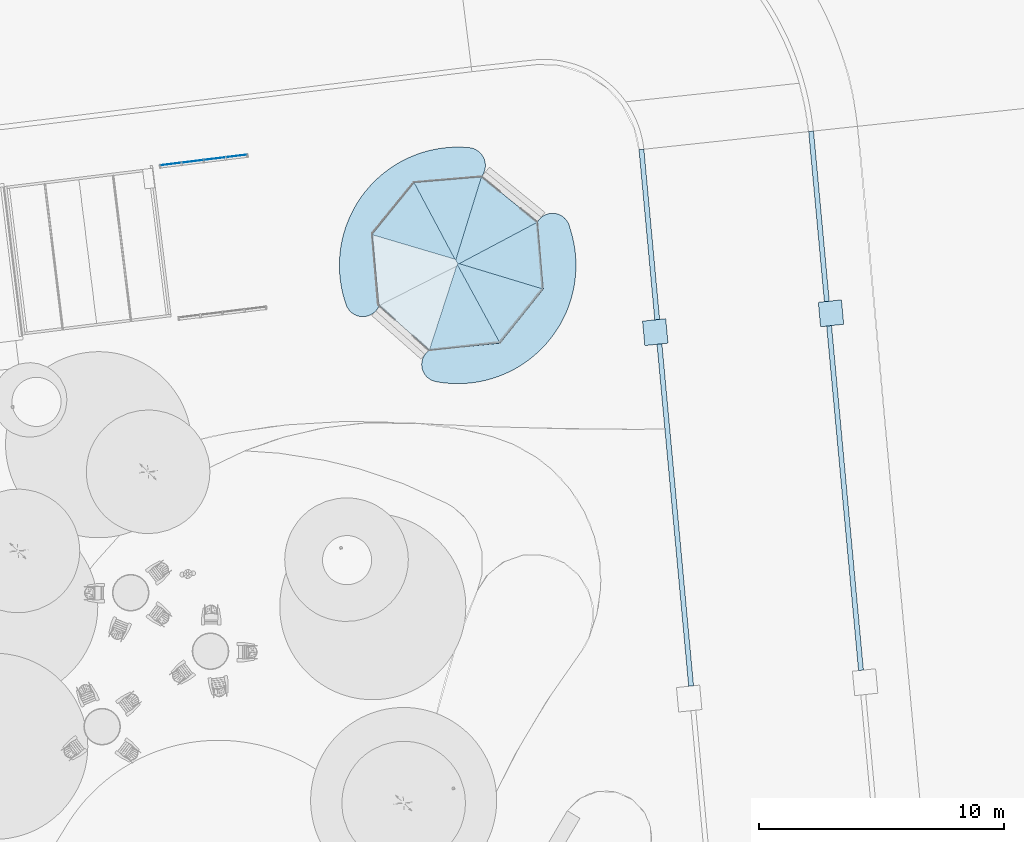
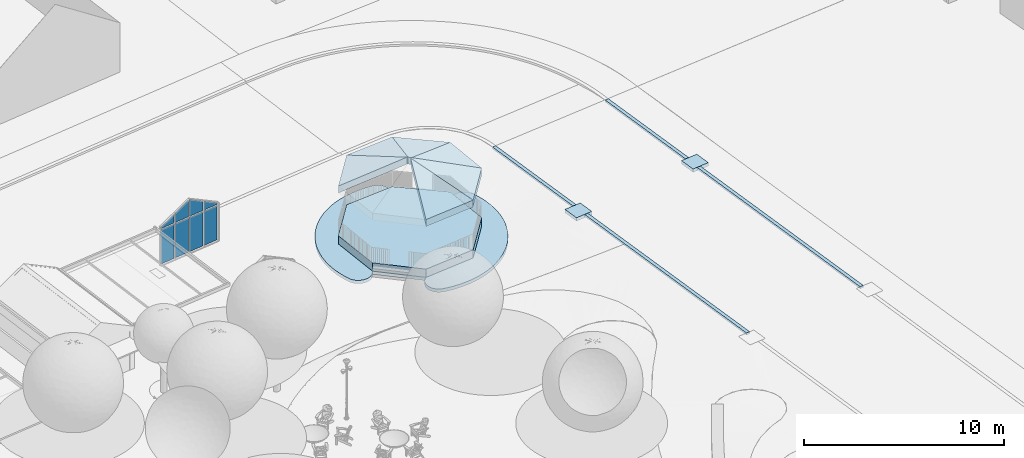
# One storey, part 14 of 75: 14 slabs, 8 plates, 2 elements without a shape of their own.
"""IFC2X3 building model written with IfcOpenShell, lengths in metres."""

from ifc_helpers import new_model, entity, si_unit, converted_unit, derived_unit, direction, frame, frame_2d, origin, place, context, subcontext, project, spatial, polyline, circle_curve, parameter, trimmed, segment, composite_curve, rectangle, outline, extrude, faceted_brep, source, transform, mapped, material, layer, layer_set, layer_usage, type_object, type_shapes, element, aggregate, save


model = new_model("IFC2X3")

# Units and contexts
model_context = context("Model", 3, precision=1e-05, world=origin(), true_north=direction((6.123031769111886e-17, 1.0)))
body_context = subcontext(model_context, "Body", "Model", "MODEL_VIEW")
ifc_project = project(units=[si_unit("LENGTHUNIT", "METRE"), si_unit("AREAUNIT", "SQUARE_METRE"), si_unit("VOLUMEUNIT", "CUBIC_METRE"), converted_unit("PLANEANGLEUNIT", "DEGREE", entity("IfcRatioMeasure", 0.017453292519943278), si_unit("PLANEANGLEUNIT", "RADIAN"), dimensions=[0, 0, 0, 0, 0, 0, 0]), si_unit("MASSUNIT", "GRAM", prefix="KILO"), derived_unit("MASSDENSITYUNIT", [(si_unit("MASSUNIT", "GRAM", prefix="KILO"), 1), (si_unit("LENGTHUNIT", "METRE"), -3)]), derived_unit("IONCONCENTRATIONUNIT", [(si_unit("MASSUNIT", "GRAM", prefix="KILO"), 1), (si_unit("LENGTHUNIT", "METRE"), -3)]), derived_unit("MOMENTOFINERTIAUNIT", [(si_unit("LENGTHUNIT", "METRE"), 4)]), si_unit("TIMEUNIT", "SECOND"), si_unit("FREQUENCYUNIT", "HERTZ"), si_unit("THERMODYNAMICTEMPERATUREUNIT", "DEGREE_CELSIUS"), derived_unit("THERMALTRANSMITTANCEUNIT", [(si_unit("MASSUNIT", "GRAM", prefix="KILO"), 1), (si_unit("THERMODYNAMICTEMPERATUREUNIT", "KELVIN"), -1), (si_unit("TIMEUNIT", "SECOND"), -3)]), derived_unit("THERMALCONDUCTANCEUNIT", [(si_unit("MASSUNIT", "GRAM", prefix="KILO"), 1), (si_unit("THERMODYNAMICTEMPERATUREUNIT", "KELVIN"), -1), (si_unit("TIMEUNIT", "SECOND"), -3), (si_unit("LENGTHUNIT", "METRE"), 1)]), derived_unit("VOLUMETRICFLOWRATEUNIT", [(si_unit("LENGTHUNIT", "METRE"), 3), (si_unit("TIMEUNIT", "SECOND"), -1)]), derived_unit("MASSFLOWRATEUNIT", [(si_unit("MASSUNIT", "GRAM", prefix="KILO"), 1), (si_unit("TIMEUNIT", "SECOND"), -1)]), derived_unit("ROTATIONALFREQUENCYUNIT", [(si_unit("TIMEUNIT", "SECOND"), -1)]), si_unit("ELECTRICCURRENTUNIT", "AMPERE"), si_unit("ELECTRICVOLTAGEUNIT", "VOLT"), si_unit("POWERUNIT", "WATT"), si_unit("FORCEUNIT", "NEWTON", prefix="KILO"), si_unit("ILLUMINANCEUNIT", "LUX"), si_unit("LUMINOUSFLUXUNIT", "LUMEN"), si_unit("LUMINOUSINTENSITYUNIT", "CANDELA"), derived_unit("USERDEFINED", [(si_unit("MASSUNIT", "GRAM", prefix="KILO"), -1), (si_unit("LENGTHUNIT", "METRE"), -2), (si_unit("TIMEUNIT", "SECOND"), 3), (si_unit("LUMINOUSFLUXUNIT", "LUMEN"), 1)]), derived_unit("USERDEFINED", [(si_unit("MASSUNIT", "GRAM", prefix="KILO"), 1), (si_unit("TIMEUNIT", "SECOND"), -3), (si_unit("LENGTHUNIT", "METRE"), 3), (si_unit("ELECTRICCURRENTUNIT", "AMPERE"), -2)]), derived_unit("SOUNDPOWERUNIT", [(si_unit("MASSUNIT", "GRAM", prefix="KILO"), 1), (si_unit("TIMEUNIT", "SECOND"), -3), (si_unit("LENGTHUNIT", "METRE"), 2)]), derived_unit("SOUNDPRESSUREUNIT", [(si_unit("MASSUNIT", "GRAM", prefix="KILO"), 1), (si_unit("LENGTHUNIT", "METRE"), -1), (si_unit("TIMEUNIT", "SECOND"), -2)]), derived_unit("LINEARVELOCITYUNIT", [(si_unit("LENGTHUNIT", "METRE"), 1), (si_unit("TIMEUNIT", "SECOND"), -1)]), si_unit("PRESSUREUNIT", "PASCAL"), derived_unit("USERDEFINED", [(si_unit("MASSUNIT", "GRAM", prefix="KILO"), 1), (si_unit("LENGTHUNIT", "METRE"), -2), (si_unit("TIMEUNIT", "SECOND"), -2)]), derived_unit("LINEARFORCEUNIT", [(si_unit("MASSUNIT", "GRAM", prefix="KILO"), 1), (si_unit("TIMEUNIT", "SECOND"), -2)]), derived_unit("PLANARFORCEUNIT", [(si_unit("MASSUNIT", "GRAM", prefix="KILO"), 1), (si_unit("LENGTHUNIT", "METRE"), -1), (si_unit("TIMEUNIT", "SECOND"), -2)]), derived_unit("SPECIFICHEATCAPACITYUNIT", [(si_unit("THERMODYNAMICTEMPERATUREUNIT", "KELVIN"), -1), (si_unit("LENGTHUNIT", "METRE"), 2), (si_unit("TIMEUNIT", "SECOND"), -2)]), derived_unit("HEATINGVALUEUNIT", [(si_unit("LENGTHUNIT", "METRE"), 2), (si_unit("TIMEUNIT", "SECOND"), -2)]), derived_unit("VAPORPERMEABILITYUNIT", [(si_unit("LENGTHUNIT", "METRE"), -1), (si_unit("TIMEUNIT", "SECOND"), 1)]), derived_unit("DYNAMICVISCOSITYUNIT", [(si_unit("MASSUNIT", "GRAM", prefix="KILO"), 1), (si_unit("TIMEUNIT", "SECOND"), -1), (si_unit("LENGTHUNIT", "METRE"), -1)]), derived_unit("THERMALEXPANSIONCOEFFICIENTUNIT", [(si_unit("THERMODYNAMICTEMPERATUREUNIT", "KELVIN"), -1)]), derived_unit("MODULUSOFELASTICITYUNIT", [(si_unit("MASSUNIT", "GRAM", prefix="KILO"), 1), (si_unit("LENGTHUNIT", "METRE"), -1), (si_unit("TIMEUNIT", "SECOND"), -2)]), derived_unit("ISOTHERMALMOISTURECAPACITYUNIT", [(si_unit("LENGTHUNIT", "METRE"), 3), (si_unit("MASSUNIT", "GRAM", prefix="KILO"), -1)]), derived_unit("MOISTUREDIFFUSIVITYUNIT", [(si_unit("TIMEUNIT", "SECOND"), -1), (si_unit("LENGTHUNIT", "METRE"), 2)])], contexts=[model_context])

# Site, building, storey
site_placement = place(None, origin())
site = spatial("IfcSite", under=ifc_project, at=site_placement, Name="Default", CompositionType="ELEMENT")
building_placement = place(site_placement, origin())
building = spatial("IfcBuilding", under=site, at=building_placement, Name="Projeto", CompositionType="ELEMENT")
storey_placement = place(building_placement, origin())
storey = spatial("IfcBuildingStorey", under=building, at=storey_placement, Name="Nível 1", CompositionType="ELEMENT", Elevation=0.0)

# Roof, slabs
ifc_material_1 = material(Name="NBS_Betafence_GreenRAL6005")
ifc_layer_1 = layer(ifc_material_1, 0.4)
ifc_layer_set_1 = layer_set([ifc_layer_1], Name="Telhado básico:Genérico - 400 mm")
roof_placement = place(storey_placement, frame((16.56648787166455, 28.04802885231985, 0.4999999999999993)))
roof = element("IfcRoof", 1, at=roof_placement, inside=storey, material=ifc_layer_set_1, Name="Telhado básico:Genérico - 400 mm", ObjectType="Telhado básico:Genérico - 400 mm", ShapeType="NOTDEFINED")
slab_type_1 = type_object("IfcSlabType", Name="Telhado básico:Genérico - 400 mm", PredefinedType="ROOF")
slab_1_placement = place(roof_placement, origin())
slab_1 = element("IfcSlab", 2, at=slab_1_placement, type_object=slab_type_1, material=ifc_layer_set_1, Name="Telhado básico:Genérico - 400 mm", ObjectType="Telhado básico:Genérico - 400 mm", PredefinedType="ROOF", context=body_context, shape_type="SweptSolid", body=[
    extrude(outline(polyline([(0.1521872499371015, -1.7103582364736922), (0.18987840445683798, -1.7440304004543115), (1.2392605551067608, 1.8571425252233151), (-1.5159757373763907, 1.6390737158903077), (0.1521872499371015, -1.7103582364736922)])), frame((3.2269632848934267, 5.3192799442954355, 0.5997579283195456), z_axis=(-0.02870552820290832, 0.3408133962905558, 0.9396926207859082), x_axis=(0.9995879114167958, 0.009787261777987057, 0.02698549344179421)), (0.02698549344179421, -0.34095389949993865, 0.9396926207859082), 0.42567110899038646),
])
slab_2_placement = place(roof_placement, origin())
slab_2 = element("IfcSlab", 3, at=slab_2_placement, type_object=slab_type_1, material=ifc_layer_set_1, Name="Telhado básico:Genérico - 400 mm", ObjectType="Telhado básico:Genérico - 400 mm", PredefinedType="ROOF", context=body_context, shape_type="SweptSolid", body=[
    extrude(outline(polyline([(-0.43137923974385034, 2.166538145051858), (-2.207317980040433, 0.08788013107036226), (1.2987640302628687, -1.1513024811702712), (-0.43137923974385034, 2.166538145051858)])), frame((2.127366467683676, 4.758470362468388, 0.5935090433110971), z_axis=(-0.2667025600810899, 0.21412034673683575, 0.939692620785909), x_axis=(0.9637788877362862, 0.05925264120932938, 0.26003726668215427)), (0.26003726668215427, -0.22216750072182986, 0.939692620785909), 0.42567110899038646),
])
slab_3_placement = place(roof_placement, origin())
slab_3 = element("IfcSlab", 4, at=slab_3_placement, type_object=slab_type_1, material=ifc_layer_set_1, Name="Telhado básico:Genérico - 400 mm", ObjectType="Telhado básico:Genérico - 400 mm", PredefinedType="ROOF", context=body_context, shape_type="SweptSolid", body=[
    extrude(outline(polyline([(-1.2743273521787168, -1.9092394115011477), (1.6106426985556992, -1.635522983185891), (-0.12279591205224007, 1.7766849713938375), (-0.16073840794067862, 1.7277616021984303), (-1.2743273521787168, -1.9092394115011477)])), frame((3.6105160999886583, 1.8100657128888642, 0.6089122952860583), z_axis=(0.03435761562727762, -0.34029007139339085, 0.9396926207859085), x_axis=(0.9994096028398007, 0.011698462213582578, -0.032304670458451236)), (-0.032304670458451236, 0.3404910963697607, 0.9396926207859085), 0.4256711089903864),
])
slab_4_placement = place(roof_placement, origin())
slab_4 = element("IfcSlab", 5, at=slab_4_placement, type_object=slab_type_1, material=ifc_layer_set_1, Name="Telhado básico:Genérico - 400 mm", ObjectType="Telhado básico:Genérico - 400 mm", PredefinedType="ROOF", context=body_context, shape_type="SweptSolid", body=[
    extrude(outline(polyline([(0.44560018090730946, -2.235267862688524), (2.277532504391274, -0.08847389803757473), (-1.2809399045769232, 1.1920136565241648), (-1.3379987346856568, 1.1894891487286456), (-1.3519886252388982, 1.1435850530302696), (0.44560018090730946, -2.235267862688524)])), frame((4.790763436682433, 2.4441983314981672, 0.6121880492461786), z_axis=(0.2668290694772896, -0.21396267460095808, 0.9396926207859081), x_axis=(0.9637438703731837, 0.05923924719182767, -0.2601700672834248)), (-0.2601700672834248, 0.22201196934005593, 0.9396926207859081), 0.42567110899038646),
])
slab_5_placement = place(roof_placement, origin())
slab_5 = element("IfcSlab", 6, at=slab_5_placement, type_object=slab_type_1, material=ifc_layer_set_1, Name="Telhado básico:Genérico - 400 mm", ObjectType="Telhado básico:Genérico - 400 mm", PredefinedType="ROOF", context=body_context, shape_type="SweptSolid", body=[
    extrude(outline(polyline([(1.88963511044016, -1.1982977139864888), (1.6328687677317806, 1.5298293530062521), (-1.7580409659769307, -0.19988221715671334), (1.88963511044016, -1.1982977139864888)])), frame((5.209132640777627, 3.711166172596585, 0.6050457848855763), z_axis=(0.3406902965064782, 0.030131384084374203, 0.939692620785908), x_axis=(0.9401755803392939, -0.010918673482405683, -0.34051528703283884)), (-0.34051528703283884, -0.03204867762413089, 0.939692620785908), 0.42567110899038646),
])
slab_6_placement = place(roof_placement, origin())
slab_6 = element("IfcSlab", 7, at=slab_6_placement, type_object=slab_type_1, material=ifc_layer_set_1, Name="Telhado básico:Genérico - 400 mm", ObjectType="Telhado básico:Genérico - 400 mm", PredefinedType="ROOF", context=body_context, shape_type="SweptSolid", body=[
    extrude(outline(polyline([(2.254335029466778, 0.5290963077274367), (-0.07931748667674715, 2.3142337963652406), (-1.1536092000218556, -1.2795868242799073), (-1.0670555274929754, -1.4373108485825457), (-1.0107369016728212, -1.4278084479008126), (2.254335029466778, 0.5290963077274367)])), frame((4.543159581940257, 4.845411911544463, 0.6121880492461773), z_axis=(0.2159225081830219, 0.2652456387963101, 0.9396926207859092), x_axis=(0.9764105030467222, -0.05865617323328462, -0.20780274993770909)), (-0.20780274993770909, -0.2716538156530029, 0.9396926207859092), 0.42567110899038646),
])
aggregate(roof, [slab_1, slab_2, slab_3, slab_4, slab_5, slab_6])

# Slabs
ifc_material_2 = material(Name="Concreto moldado In loco")
ifc_layer_2 = layer(ifc_material_2, 0.12)
ifc_layer_set_2 = layer_set([ifc_layer_2], Name="Piso:meio fio de concreto")
ifc_layer_usage_1 = layer_usage(ifc_layer_set_2, "AXIS3", "POSITIVE", 0.0)
slab_type_2 = type_object("IfcSlabType", Name="Piso:meio fio de concreto", PredefinedType="FLOOR", material=ifc_layer_set_2)
slab_7_placement = place(storey_placement, frame((27.450849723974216, -10.7583369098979, -2.720221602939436)))
element("IfcSlab", 8, at=slab_7_placement, inside=storey, type_object=slab_type_2, material=ifc_layer_usage_1, Name="Piso:meio fio de concreto", ObjectType="Piso:meio fio de concreto", PredefinedType="FLOOR", context=body_context, shape_type="SweptSolid", body=[
    extrude(outline(polyline([(-3.306108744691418, -0.353084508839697), (-3.5049940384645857, -0.37436840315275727), (-2.8631333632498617, -7.31831836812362), (-2.6642480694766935, -7.297034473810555), (-3.306108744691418, -0.353084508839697)])), frame((3.5049337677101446, 47.35473072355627, 0.12022160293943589), z_axis=(-0.005864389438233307, 0.05471618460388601, 0.9984847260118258), x_axis=(0.9999828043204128, 0.00032088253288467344, 0.0058556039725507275)), (-0.0058556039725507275, 0.05471712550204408, -0.9984847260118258), 0.12018210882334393),
])
slab_8_placement = place(storey_placement, frame((27.450849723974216, -10.7583369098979, -2.720221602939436)))
element("IfcSlab", 9, at=slab_8_placement, inside=storey, type_object=slab_type_2, material=ifc_layer_usage_1, Name="Piso:meio fio de concreto:4", ObjectType="Piso:meio fio de concreto", PredefinedType="FLOOR", context=body_context, shape_type="SweptSolid", body=[
    extrude(outline(polyline([(3.4095646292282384, 0.36559951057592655), (4.051425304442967, -6.578350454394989), (4.250310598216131, -6.557066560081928), (3.6084499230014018, 0.38688340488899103), (3.4095646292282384, 0.36559951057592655)])), frame((3.5049337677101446, 47.35473072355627, 0.12022160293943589), z_axis=(-0.005864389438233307, 0.05471618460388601, 0.9984847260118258), x_axis=(0.9999828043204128, 0.00032088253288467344, 0.0058556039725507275)), (-0.0058556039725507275, 0.05471712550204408, -0.9984847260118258), 0.12018210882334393),
])
slab_9_placement = place(storey_placement, frame((27.450849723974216, -10.7583369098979, -2.720221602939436)))
element("IfcSlab", 10, at=slab_9_placement, inside=storey, type_object=slab_type_2, material=ifc_layer_usage_1, Name="Piso:meio fio de concreto:7", ObjectType="Piso:meio fio de concreto", PredefinedType="FLOOR", context=body_context, shape_type="SweptSolid", body=[
    extrude(outline(polyline([(5.443370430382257, -21.637065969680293), (5.642255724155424, -21.615782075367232), (4.836151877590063, -12.894972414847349), (4.342502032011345, -7.554436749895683), (4.143616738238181, -7.575720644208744), (4.6644237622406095, -13.210055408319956), (5.443370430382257, -21.637065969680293)])), frame((3.5049337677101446, 47.35473072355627, 0.12022160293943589), z_axis=(-0.005864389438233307, 0.05471618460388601, 0.9984847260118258), x_axis=(0.9999828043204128, 0.00032088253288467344, 0.0058556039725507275)), (-0.0058556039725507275, 0.05471712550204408, -0.9984847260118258), 0.12018210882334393),
])
slab_10_placement = place(storey_placement, frame((27.450849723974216, -10.7583369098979, -2.720221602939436)))
element("IfcSlab", 11, at=slab_10_placement, inside=storey, type_object=slab_type_2, material=ifc_layer_usage_1, Name="Piso:meio fio de concreto:8", ObjectType="Piso:meio fio de concreto", PredefinedType="FLOOR", context=body_context, shape_type="SweptSolid", body=[
    extrude(outline(polyline([(-1.480618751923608, -22.275010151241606), (-1.28173345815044, -22.253726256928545), (-2.0361285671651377, -14.092325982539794), (-2.572056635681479, -8.29440466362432), (-2.770941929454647, -8.315688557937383), (-2.190311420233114, -14.597221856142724), (-1.480618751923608, -22.275010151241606)])), frame((3.5049337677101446, 47.35473072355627, 0.12022160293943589), z_axis=(-0.005864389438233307, 0.05471618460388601, 0.9984847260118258), x_axis=(0.9999828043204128, 0.00032088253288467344, 0.0058556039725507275)), (-0.0058556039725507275, 0.05471712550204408, -0.9984847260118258), 0.12018210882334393),
])
ifc_material_3 = material(Name="floração tipo 2")
ifc_layer_3 = layer(ifc_material_3, 0.04)
ifc_layer_4 = layer(ifc_material_3, 0.16)
ifc_layer_set_3 = layer_set([ifc_layer_3, ifc_layer_4], Name="Piso:Floração tipo 2")
ifc_layer_usage_2 = layer_usage(ifc_layer_set_3, "AXIS3", "POSITIVE", 0.0)
slab_type_3 = type_object("IfcSlabType", Name="Piso:Floração tipo 2", PredefinedType="FLOOR", material=ifc_layer_set_3)
slab_11_placement = place(storey_placement, origin())
element("IfcSlab", 12, at=slab_11_placement, inside=storey, type_object=slab_type_3, material=ifc_layer_usage_2, Name="Piso:Floração tipo 2", ObjectType="Piso:Floração tipo 2", PredefinedType="FLOOR", context=body_context, shape_type="SweptSolid", body=[
    extrude(outline(composite_curve([segment(trimmed(circle_curve(frame_2d((0.046779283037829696, 0.051218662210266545), x_axis=(1.0, 0.0)), 4.820563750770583), [parameter(0.0)], [parameter(119.35913881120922)], True, "PARAMETER"), True, "CONTINUOUS"), segment(trimmed(circle_curve(frame_2d((-1.9706352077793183, 3.637530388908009), x_axis=(-0.4902823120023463, 0.8715636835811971)), 0.7057620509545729), [parameter(0.0)], [parameter(135.135611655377)], True, "PARAMETER"), True, "CONTINUOUS"), segment(polyline([(-2.1593042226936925, 2.9574538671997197), (-3.511492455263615, 0.5767010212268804)]), True, "CONTINUOUS"), segment(trimmed(circle_curve(frame_2d((-4.056798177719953, 0.11186929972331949), x_axis=(0.7610282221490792, 0.6487187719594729)), 0.716538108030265), [parameter(0.0)], [parameter(138.70816106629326)], True, "PARAMETER"), True, "CONTINUOUS"), segment(trimmed(circle_curve(frame_2d((0.04677928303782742, 0.05121866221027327), x_axis=(-0.9998907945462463, 0.014778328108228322)), 4.820563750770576), [parameter(0.0)], [parameter(115.745402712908)], True, "PARAMETER"), True, "CONTINUOUS"), segment(trimmed(circle_curve(frame_2d((1.731082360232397, -3.6780068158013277), x_axis=(0.4728653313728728, -0.881134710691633)), 0.7300658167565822), [parameter(0.0)], [parameter(118.9844706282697)], True, "PARAMETER"), True, "CONTINUOUS"), segment(polyline([(2.1265122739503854, -3.0643038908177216), (3.69055208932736, -0.5748820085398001)]), True, "CONTINUOUS"), segment(trimmed(circle_curve(frame_2d((4.1645353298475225, -0.04678753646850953), x_axis=(-0.6679505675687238, -0.7442056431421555)), 0.7096082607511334), [parameter(0.0)], [parameter(139.8477593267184)], True, "PARAMETER"), True, "CONTINUOUS")], self_intersect=False)), frame((19.999772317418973, 31.541903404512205, -2.5999999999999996), z_axis=(0.0, 0.0, -1.0), x_axis=(0.9471392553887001, 0.320822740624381, 0.0)), (0.0, 0.0, 1.0), 0.19999999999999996),
])
ifc_material_4 = material(Name="Piso de carvalho")
ifc_layer_5 = layer(ifc_material_4, 0.49999999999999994)
ifc_layer_set_4 = layer_set([ifc_layer_5], Name="Piso:Madeira de lei padrão-Acabamento em madeira")
ifc_layer_usage_3 = layer_usage(ifc_layer_set_4, "AXIS3", "POSITIVE", 0.0)
slab_type_4 = type_object("IfcSlabType", Name="Piso:Madeira de lei padrão-Acabamento em madeira", PredefinedType="FLOOR", material=ifc_layer_set_4)
slab_12_placement = place(storey_placement, origin())
element("IfcSlab", 13, at=slab_12_placement, inside=storey, type_object=slab_type_4, material=ifc_layer_usage_3, Name="Piso:Madeira de lei padrão-Acabamento em madeira", ObjectType="Piso:Madeira de lei padrão-Acabamento em madeira", PredefinedType="FLOOR", context=body_context, shape_type="SweptSolid", body=[
    extrude(outline(polyline([(-1.475895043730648, -3.4233307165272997), (1.2879575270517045, -3.4233307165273), (3.402841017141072, -1.3837430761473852), (3.4143071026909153, 1.3564165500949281), (1.4702321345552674, 3.4022104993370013), (-1.4272943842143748, 3.4503036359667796), (-3.3117479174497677, 1.4640428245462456), (-3.3604004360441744, -1.4425690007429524), (-1.475895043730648, -3.4233307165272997)])), frame((20.036105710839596, 31.605950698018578, -2.0999999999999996), z_axis=(0.0, 0.0, -1.0), x_axis=(0.9964717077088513, 0.0839293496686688, 0.0)), (0.0, 0.0, 1.0), 0.4999999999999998),
])
ifc_material_5 = material(Name="floração tipo 2(1)")
ifc_layer_6 = layer(ifc_material_5, 0.04)
ifc_layer_7 = layer(ifc_material_3, 0.16)
ifc_layer_set_5 = layer_set([ifc_layer_6, ifc_layer_7], Name="Piso:Glicinia")
ifc_layer_usage_4 = layer_usage(ifc_layer_set_5, "AXIS3", "POSITIVE", 0.0)
slab_type_5 = type_object("IfcSlabType", Name="Piso:Glicinia", PredefinedType="FLOOR", material=ifc_layer_set_5)
slab_13_placement = place(storey_placement, frame((27.59549467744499, -1.6309922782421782, -2.4166315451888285)))
element("IfcSlab", 14, at=slab_13_placement, inside=storey, type_object=slab_type_5, material=ifc_layer_usage_4, Name="Piso:Glicinia:5", ObjectType="Piso:Glicinia", PredefinedType="FLOOR", context=body_context, shape_type="SweptSolid", body=[
    extrude(outline(polyline([(3.8028186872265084, -6.604955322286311), (3.8950101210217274, -7.60232551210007), (4.838504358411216, -7.501356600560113), (4.746737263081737, -6.503940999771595), (3.8028186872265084, -6.604955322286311)])), frame((3.36028881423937, 38.22738609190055, -0.1833684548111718), z_axis=(-0.005864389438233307, 0.05471618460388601, 0.9984847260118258), x_axis=(0.9999828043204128, 0.00032088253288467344, 0.0058556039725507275)), (-0.0058556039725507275, 0.05471712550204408, -0.9984847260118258), 0.20030351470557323),
])
slab_14_placement = place(storey_placement, frame((27.59549467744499, -1.6309922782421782, -2.4166315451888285)))
element("IfcSlab", 15, at=slab_14_placement, inside=storey, type_object=slab_type_5, material=ifc_layer_usage_4, Name="Piso:Glicinia:6", ObjectType="Piso:Glicinia", PredefinedType="FLOOR", context=body_context, shape_type="SweptSolid", body=[
    extrude(outline(polyline([(-3.3603465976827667, -7.371528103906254), (-3.2681551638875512, -8.368898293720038), (-2.323450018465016, -8.267799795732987), (-2.41564145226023, -7.270429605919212), (-3.3603465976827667, -7.371528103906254)])), frame((3.36028881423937, 38.22738609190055, -0.1833684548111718), z_axis=(-0.005864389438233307, 0.05471618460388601, 0.9984847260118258), x_axis=(0.9999828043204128, 0.00032088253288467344, 0.0058556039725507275)), (-0.0058556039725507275, 0.05471712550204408, -0.9984847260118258), 0.20030351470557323),
])

# Curtain wall, plates
curtain_wall_type = type_object("IfcCurtainWallType", Name="Parede cortina:Vitrine", PredefinedType="NOTDEFINED")
curtain_wall_placement = place(storey_placement, origin())
curtain_wall = element("IfcCurtainWall", 16, at=curtain_wall_placement, inside=storey, type_object=curtain_wall_type, Name="Parede cortina:Vitrine", ObjectType="Parede cortina:Vitrine")
ifc_material_6 = material(Name="Vidro")
plate_type_1 = type_object("IfcPlateType", Name="Painel do sistema:Envidraçado", PredefinedType="CURTAIN_PANEL", material=ifc_material_6)
shared_shape_1 = source(origin(), body_context, "Body", "SweptSolid", [
    extrude(rectangle(XDim=0.010000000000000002, YDim=0.8337612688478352, at=frame_2d((-4.336808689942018e-18, -1.3877787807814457e-16), x_axis=(1.0, 0.0))), frame((0.0, 0.037, 0.0), z_axis=(0.0, 0.0, 1.0), x_axis=(0.0, 1.0, 0.0)), (0.0, 0.0, 1.0), 2.1079684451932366),
])
type_shapes(plate_type_1, [shared_shape_1])
plate_1_placement = place(curtain_wall_placement, frame((8.369958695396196, 35.60225256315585, -2.5299999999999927), z_axis=(0.0, 0.0, 1.0), x_axis=(0.9925113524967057, 0.1221524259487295, 0.0)))
plate_1 = element("IfcPlate", 17, at=plate_1_placement, type_object=plate_type_1, material=ifc_material_6, Name="Painel do sistema:Envidraçado", ObjectType="Painel do sistema:Envidraçado", context=body_context, shape_type="MappedRepresentation", body=[
    mapped(shared_shape_1, transform((0.0, 0.0, 0.0), scale=1.0)),
])
plate_2_placement = place(curtain_wall_placement, frame((11.051013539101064, 35.9322209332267, -2.5299999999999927), z_axis=(0.0, 0.0, 1.0), x_axis=(0.9925113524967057, 0.1221524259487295, 0.0)))
plate_2 = element("IfcPlate", 18, at=plate_2_placement, type_object=plate_type_1, material=ifc_material_6, Name="Painel do sistema:Envidraçado", ObjectType="Painel do sistema:Envidraçado", context=body_context, shape_type="MappedRepresentation", body=[
    mapped(shared_shape_1, transform((0.0, 0.0, 0.0), scale=1.0)),
])
plate_type_2 = type_object("IfcPlateType", Name="Painel do sistema:Envidraçado", PredefinedType="CURTAIN_PANEL", material=ifc_material_6)
shared_shape_2 = source(origin(), body_context, "Body", "SweptSolid", [
    extrude(rectangle(XDim=0.010000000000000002, YDim=0.858761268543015, at=frame_2d((-4.336808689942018e-18, 5.551115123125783e-17), x_axis=(1.0, 0.0))), frame((0.0, 0.03699999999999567, 0.0), z_axis=(0.0, 0.0, 1.0), x_axis=(0.0, 1.0, 0.0)), (0.0, 0.0, 1.0), 2.1079684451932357),
])
type_shapes(plate_type_2, [shared_shape_2])
plate_3_placement = place(curtain_wall_placement, frame((9.259508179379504, 35.71173305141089, -2.5299999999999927), z_axis=(0.0, 0.0, 1.0), x_axis=(0.9925113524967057, 0.1221524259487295, 0.0)))
plate_3 = element("IfcPlate", 19, at=plate_3_placement, type_object=plate_type_2, material=ifc_material_6, Name="Painel do sistema:Envidraçado", ObjectType="Painel do sistema:Envidraçado", context=body_context, shape_type="MappedRepresentation", body=[
    mapped(shared_shape_2, transform((0.0, 0.0, 0.0), scale=1.0)),
])
plate_4_placement = place(curtain_wall_placement, frame((10.161464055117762, 35.822740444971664, -2.5299999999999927), z_axis=(0.0, 0.0, 1.0), x_axis=(0.9925113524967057, 0.1221524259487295, 0.0)))
plate_4 = element("IfcPlate", 20, at=plate_4_placement, type_object=plate_type_2, material=ifc_material_6, Name="Painel do sistema:Envidraçado", ObjectType="Painel do sistema:Envidraçado", context=body_context, shape_type="MappedRepresentation", body=[
    mapped(shared_shape_2, transform((0.0, 0.0, 0.0), scale=1.0)),
])
plate_type_3 = type_object("IfcPlateType", Name="Painel do sistema:Envidraçado", PredefinedType="CURTAIN_PANEL", material=ifc_material_6)
shared_shape_3 = source(origin(), body_context, "Body", "SweptSolid", [
    extrude(outline(polyline([(-0.16823398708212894, -0.4168806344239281), (-0.05342537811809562, -0.4168806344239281), (0.3898933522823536, 0.41688063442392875), (-0.16823398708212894, 0.4168806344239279), (-0.16823398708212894, -0.4168806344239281)])), frame((0.0, 0.032000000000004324, 0.1682339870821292), z_axis=(0.0, 1.0, 0.0), x_axis=(0.0, 0.0, 1.0)), (0.0, 0.0, 1.0), 0.010000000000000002),
])
type_shapes(plate_type_3, [shared_shape_3])
plate_5_placement = place(curtain_wall_placement, frame((8.369958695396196, 35.60225256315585, -0.37203155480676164), z_axis=(0.0, 0.0, 1.0), x_axis=(0.9925113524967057, 0.1221524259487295, 0.0)))
plate_5 = element("IfcPlate", 21, at=plate_5_placement, type_object=plate_type_3, material=ifc_material_6, Name="Painel do sistema:Envidraçado", ObjectType="Painel do sistema:Envidraçado", context=body_context, shape_type="MappedRepresentation", body=[
    mapped(shared_shape_3, transform((0.0, 0.0, 0.0), scale=1.0)),
])
plate_type_4 = type_object("IfcPlateType", Name="Painel do sistema:Envidraçado", PredefinedType="CURTAIN_PANEL", material=ifc_material_6)
shared_shape_4 = source(origin(), body_context, "Body", "Brep", [
    faceted_brep([(0.0, 0.0, 0.0), (0.8587612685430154, 0.0, 0.0), (0.8587612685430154, 0.0, 1.116815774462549), (0.8764993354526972, 0.0, 1.1073842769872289), (0.8999729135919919, 0.0, 1.0632368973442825), (0.0, 0.0, 0.5847128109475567), (0.0, 0.010000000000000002, 0.0), (0.0, 0.010000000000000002, 0.5847128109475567), (0.8999729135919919, 0.010000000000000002, 1.0632368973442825), (0.8764993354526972, 0.010000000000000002, 1.1073842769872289), (0.8587612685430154, 0.010000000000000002, 1.116815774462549), (0.8587612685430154, 0.010000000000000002, 0.0)], [[[0, 1, 2, 3, 4, 5]], [[6, 7, 8, 9, 10, 11]], [[1, 0, 6, 11]], [[2, 1, 11, 10]], [[3, 2, 10, 9]], [[4, 3, 9, 8]], [[5, 4, 8, 7]], [[0, 5, 7, 6]]]),
])
type_shapes(plate_type_4, [shared_shape_4])
plate_6_placement = place(curtain_wall_placement, frame((8.829434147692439, 35.69104352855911, -0.37203155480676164), z_axis=(0.0, 0.0, 1.0), x_axis=(0.9925113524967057, 0.1221524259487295, 0.0)))
plate_6 = element("IfcPlate", 22, at=plate_6_placement, type_object=plate_type_4, material=ifc_material_6, Name="Painel do sistema:Envidraçado", ObjectType="Painel do sistema:Envidraçado", context=body_context, shape_type="MappedRepresentation", body=[
    mapped(shared_shape_4, transform((0.0, 0.0, 0.0), scale=1.0)),
])
plate_type_5 = type_object("IfcPlateType", Name="Painel do sistema:Envidraçado", PredefinedType="CURTAIN_PANEL", material=ifc_material_6)
shared_shape_5 = source(origin(), body_context, "Body", "SweptSolid", [
    extrude(outline(polyline([(-0.4026480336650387, -0.4293806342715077), (0.6309537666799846, -0.4293806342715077), (0.1743423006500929, 0.4293806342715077), (-0.4026480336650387, 0.42938063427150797), (-0.4026480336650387, -0.4293806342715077)])), frame((0.0, 0.031999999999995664, 0.402648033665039), z_axis=(0.0, 1.0, 0.0), x_axis=(0.0, 0.0, 1.0)), (0.0, 0.0, 1.0), 0.010000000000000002),
])
type_shapes(plate_type_5, [shared_shape_5])
plate_7_placement = place(curtain_wall_placement, frame((10.161464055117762, 35.822740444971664, -0.37203155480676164), z_axis=(0.0, 0.0, 1.0), x_axis=(0.9925113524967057, 0.1221524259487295, 0.0)))
plate_7 = element("IfcPlate", 23, at=plate_7_placement, type_object=plate_type_5, material=ifc_material_6, Name="Painel do sistema:Envidraçado", ObjectType="Painel do sistema:Envidraçado", context=body_context, shape_type="MappedRepresentation", body=[
    mapped(shared_shape_5, transform((0.0, 0.0, 0.0), scale=1.0)),
])
plate_type_6 = type_object("IfcPlateType", Name="Painel do sistema:Envidraçado", PredefinedType="CURTAIN_PANEL", material=ifc_material_6)
shared_shape_6 = source(origin(), body_context, "Body", "SweptSolid", [
    extrude(outline(polyline([(-0.16437274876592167, -0.41688063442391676), (0.3860321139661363, -0.41688063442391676), (-0.057286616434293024, 0.4168806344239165), (-0.16437274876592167, 0.4168806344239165), (-0.16437274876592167, -0.41688063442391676)])), frame((0.0, 0.031999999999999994, 0.16437274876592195), z_axis=(0.0, 1.0, 0.0), x_axis=(0.0, 0.0, 1.0)), (0.0, 0.0, 1.0), 0.010000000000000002),
])
type_shapes(plate_type_6, [shared_shape_6])
plate_8_placement = place(curtain_wall_placement, frame((11.051013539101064, 35.9322209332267, -0.37203155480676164), z_axis=(0.0, 0.0, 1.0), x_axis=(0.9925113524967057, 0.1221524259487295, 0.0)))
plate_8 = element("IfcPlate", 24, at=plate_8_placement, type_object=plate_type_6, material=ifc_material_6, Name="Painel do sistema:Envidraçado", ObjectType="Painel do sistema:Envidraçado", context=body_context, shape_type="MappedRepresentation", body=[
    mapped(shared_shape_6, transform((0.0, 0.0, 0.0), scale=1.0)),
])
aggregate(curtain_wall, [plate_1, plate_3, plate_4, plate_2, plate_5, plate_6, plate_7, plate_8])

save(model, "model.ifc")
